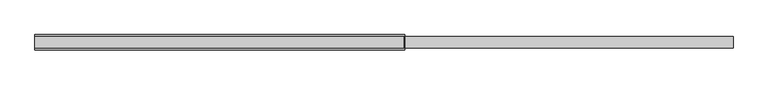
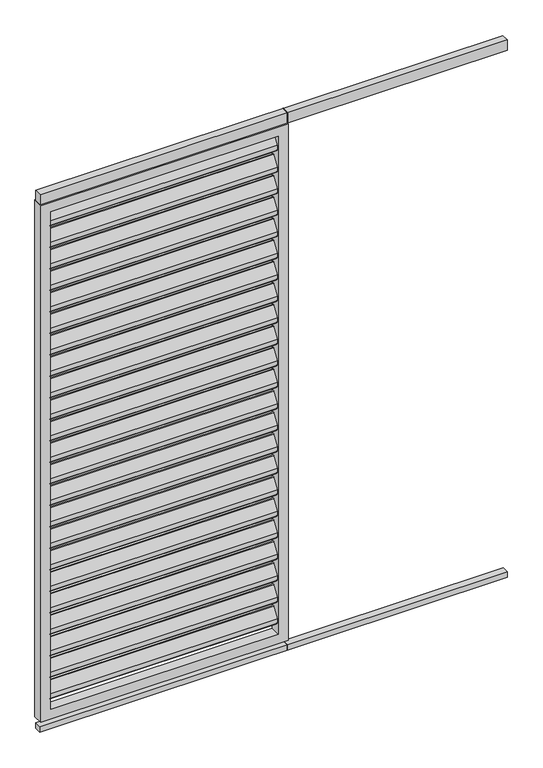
"""IFC4 building model written with IfcOpenShell, lengths in millimetres: proxy geometry, Renson_Camargue_Loggia_Paro_Aluminium : Renson_Camargue_Loggia_Paro_Aluminium."""

from ifc_helpers import new_model, si_unit, point, frame, frame_2d, origin, origin_with_axes, place, context, project, spatial, polyline, circle_curve, trimmed, segment, composite_curve, outline, extrude, source, transform, mapped, element, save


def generic_models_a826ae34(model_context):
    return source(origin(), model_context, "Body", "SweptSolid", [
        extrude(outline(composite_curve([segment(trimmed(circle_curve(frame_2d((12.6675921, 2162.6587719)), 3.0), [point((10.1515804, 2164.292689))], [point((15.6675921, 2162.6587719))], False, "CARTESIAN"), True, "CONTINUOUS"), segment(polyline([(15.6675921, 2162.6587719), (15.6675921, 2144.2979873)]), True, "CONTINUOUS"), segment(trimmed(circle_curve(frame_2d((12.6675921, 2144.2979873)), 3.0), [point((15.6675921, 2144.2979873))], [point((15.1836038, 2142.6640702))], False, "CARTESIAN"), True, "CONTINUOUS"), segment(polyline([(15.1836038, 2142.6640702), (-8.8163962, 2105.707311)]), True, "CONTINUOUS"), segment(trimmed(circle_curve(frame_2d((-11.3324079, 2107.3412281)), 3.0), [point((-8.8163962, 2105.707311))], [point((-14.3324079, 2107.3412281))], False, "CARTESIAN"), True, "CONTINUOUS"), segment(polyline([(-14.3324079, 2107.3412281), (-14.3324079, 2126.5906532), (10.1515804, 2164.292689)]), True, "CONTINUOUS")], self_intersect=False)), frame((-450.0, 0.0, 0.0), z_axis=(1.0, 0.0, 0.0), x_axis=(0.0, 1.0, 0.0)), (0.0, 0.0, 1.0), 900.0),
        extrude(outline(composite_curve([segment(trimmed(circle_curve(frame_2d((12.6675921, 2072.6587719)), 3.0), [point((10.1515804, 2074.292689))], [point((15.6675921, 2072.6587719))], False, "CARTESIAN"), True, "CONTINUOUS"), segment(polyline([(15.6675921, 2072.6587719), (15.6675921, 2054.2979873)]), True, "CONTINUOUS"), segment(trimmed(circle_curve(frame_2d((12.6675921, 2054.2979873)), 3.0), [point((15.6675921, 2054.2979873))], [point((15.1836038, 2052.6640702))], False, "CARTESIAN"), True, "CONTINUOUS"), segment(polyline([(15.1836038, 2052.6640702), (-8.8163962, 2015.707311)]), True, "CONTINUOUS"), segment(trimmed(circle_curve(frame_2d((-11.3324079, 2017.3412281)), 3.0), [point((-8.8163962, 2015.707311))], [point((-14.3324079, 2017.3412281))], False, "CARTESIAN"), True, "CONTINUOUS"), segment(polyline([(-14.3324079, 2017.3412281), (-14.3324079, 2036.5906532), (10.1515804, 2074.292689)]), True, "CONTINUOUS")], self_intersect=False)), frame((-450.0, 0.0, 0.0), z_axis=(1.0, 0.0, 0.0), x_axis=(0.0, 1.0, 0.0)), (0.0, 0.0, 1.0), 900.0),
        extrude(outline(composite_curve([segment(trimmed(circle_curve(frame_2d((12.6675921, 1982.6587719)), 3.0), [point((10.1515804, 1984.292689))], [point((15.6675921, 1982.6587719))], False, "CARTESIAN"), True, "CONTINUOUS"), segment(polyline([(15.6675921, 1982.6587719), (15.6675921, 1964.2979873)]), True, "CONTINUOUS"), segment(trimmed(circle_curve(frame_2d((12.6675921, 1964.2979873)), 3.0), [point((15.6675921, 1964.2979873))], [point((15.1836038, 1962.6640702))], False, "CARTESIAN"), True, "CONTINUOUS"), segment(polyline([(15.1836038, 1962.6640702), (-8.8163962, 1925.707311)]), True, "CONTINUOUS"), segment(trimmed(circle_curve(frame_2d((-11.3324079, 1927.3412281)), 3.0), [point((-8.8163962, 1925.707311))], [point((-14.3324079, 1927.3412281))], False, "CARTESIAN"), True, "CONTINUOUS"), segment(polyline([(-14.3324079, 1927.3412281), (-14.3324079, 1946.5906532), (10.1515804, 1984.292689)]), True, "CONTINUOUS")], self_intersect=False)), frame((-450.0, 0.0, 0.0), z_axis=(1.0, 0.0, 0.0), x_axis=(0.0, 1.0, 0.0)), (0.0, 0.0, 1.0), 900.0),
        extrude(outline(composite_curve([segment(trimmed(circle_curve(frame_2d((12.6675921, 1892.6587719)), 3.0), [point((10.1515804, 1894.292689))], [point((15.6675921, 1892.6587719))], False, "CARTESIAN"), True, "CONTINUOUS"), segment(polyline([(15.6675921, 1892.6587719), (15.6675921, 1874.2979873)]), True, "CONTINUOUS"), segment(trimmed(circle_curve(frame_2d((12.6675921, 1874.2979873)), 3.0), [point((15.6675921, 1874.2979873))], [point((15.1836038, 1872.6640702))], False, "CARTESIAN"), True, "CONTINUOUS"), segment(polyline([(15.1836038, 1872.6640702), (-8.8163962, 1835.707311)]), True, "CONTINUOUS"), segment(trimmed(circle_curve(frame_2d((-11.3324079, 1837.3412281)), 3.0), [point((-8.8163962, 1835.707311))], [point((-14.3324079, 1837.3412281))], False, "CARTESIAN"), True, "CONTINUOUS"), segment(polyline([(-14.3324079, 1837.3412281), (-14.3324079, 1856.5906532), (10.1515804, 1894.292689)]), True, "CONTINUOUS")], self_intersect=False)), frame((-450.0, 0.0, 0.0), z_axis=(1.0, 0.0, 0.0), x_axis=(0.0, 1.0, 0.0)), (0.0, 0.0, 1.0), 900.0),
        extrude(outline(composite_curve([segment(trimmed(circle_curve(frame_2d((12.6675921, 1802.6587719)), 3.0), [point((10.1515804, 1804.292689))], [point((15.6675921, 1802.6587719))], False, "CARTESIAN"), True, "CONTINUOUS"), segment(polyline([(15.6675921, 1802.6587719), (15.6675921, 1784.2979873)]), True, "CONTINUOUS"), segment(trimmed(circle_curve(frame_2d((12.6675921, 1784.2979873)), 3.0), [point((15.6675921, 1784.2979873))], [point((15.1836038, 1782.6640702))], False, "CARTESIAN"), True, "CONTINUOUS"), segment(polyline([(15.1836038, 1782.6640702), (-8.8163962, 1745.707311)]), True, "CONTINUOUS"), segment(trimmed(circle_curve(frame_2d((-11.3324079, 1747.3412281)), 3.0), [point((-8.8163962, 1745.707311))], [point((-14.3324079, 1747.3412281))], False, "CARTESIAN"), True, "CONTINUOUS"), segment(polyline([(-14.3324079, 1747.3412281), (-14.3324079, 1766.5906532), (10.1515804, 1804.292689)]), True, "CONTINUOUS")], self_intersect=False)), frame((-450.0, 0.0, 0.0), z_axis=(1.0, 0.0, 0.0), x_axis=(0.0, 1.0, 0.0)), (0.0, 0.0, 1.0), 900.0),
        extrude(outline(composite_curve([segment(trimmed(circle_curve(frame_2d((12.6675921, 1712.6587719)), 3.0), [point((10.1515804, 1714.292689))], [point((15.6675921, 1712.6587719))], False, "CARTESIAN"), True, "CONTINUOUS"), segment(polyline([(15.6675921, 1712.6587719), (15.6675921, 1694.2979873)]), True, "CONTINUOUS"), segment(trimmed(circle_curve(frame_2d((12.6675921, 1694.2979873)), 3.0), [point((15.6675921, 1694.2979873))], [point((15.1836038, 1692.6640702))], False, "CARTESIAN"), True, "CONTINUOUS"), segment(polyline([(15.1836038, 1692.6640702), (-8.8163962, 1655.707311)]), True, "CONTINUOUS"), segment(trimmed(circle_curve(frame_2d((-11.3324079, 1657.3412281)), 3.0), [point((-8.8163962, 1655.707311))], [point((-14.3324079, 1657.3412281))], False, "CARTESIAN"), True, "CONTINUOUS"), segment(polyline([(-14.3324079, 1657.3412281), (-14.3324079, 1676.5906532), (10.1515804, 1714.292689)]), True, "CONTINUOUS")], self_intersect=False)), frame((-450.0, 0.0, 0.0), z_axis=(1.0, 0.0, 0.0), x_axis=(0.0, 1.0, 0.0)), (0.0, 0.0, 1.0), 900.0),
        extrude(outline(composite_curve([segment(trimmed(circle_curve(frame_2d((12.6675921, 1622.6587719)), 3.0), [point((10.1515804, 1624.292689))], [point((15.6675921, 1622.6587719))], False, "CARTESIAN"), True, "CONTINUOUS"), segment(polyline([(15.6675921, 1622.6587719), (15.6675921, 1604.2979873)]), True, "CONTINUOUS"), segment(trimmed(circle_curve(frame_2d((12.6675921, 1604.2979873)), 3.0), [point((15.6675921, 1604.2979873))], [point((15.1836038, 1602.6640702))], False, "CARTESIAN"), True, "CONTINUOUS"), segment(polyline([(15.1836038, 1602.6640702), (-8.8163962, 1565.707311)]), True, "CONTINUOUS"), segment(trimmed(circle_curve(frame_2d((-11.3324079, 1567.3412281)), 3.0), [point((-8.8163962, 1565.707311))], [point((-14.3324079, 1567.3412281))], False, "CARTESIAN"), True, "CONTINUOUS"), segment(polyline([(-14.3324079, 1567.3412281), (-14.3324079, 1586.5906532), (10.1515804, 1624.292689)]), True, "CONTINUOUS")], self_intersect=False)), frame((-450.0, 0.0, 0.0), z_axis=(1.0, 0.0, 0.0), x_axis=(0.0, 1.0, 0.0)), (0.0, 0.0, 1.0), 900.0),
        extrude(outline(composite_curve([segment(trimmed(circle_curve(frame_2d((12.6675921, 1532.6587719)), 3.0), [point((10.1515804, 1534.292689))], [point((15.6675921, 1532.6587719))], False, "CARTESIAN"), True, "CONTINUOUS"), segment(polyline([(15.6675921, 1532.6587719), (15.6675921, 1514.2979873)]), True, "CONTINUOUS"), segment(trimmed(circle_curve(frame_2d((12.6675921, 1514.2979873)), 3.0), [point((15.6675921, 1514.2979873))], [point((15.1836038, 1512.6640702))], False, "CARTESIAN"), True, "CONTINUOUS"), segment(polyline([(15.1836038, 1512.6640702), (-8.8163962, 1475.707311)]), True, "CONTINUOUS"), segment(trimmed(circle_curve(frame_2d((-11.3324079, 1477.3412281)), 3.0), [point((-8.8163962, 1475.707311))], [point((-14.3324079, 1477.3412281))], False, "CARTESIAN"), True, "CONTINUOUS"), segment(polyline([(-14.3324079, 1477.3412281), (-14.3324079, 1496.5906532), (10.1515804, 1534.292689)]), True, "CONTINUOUS")], self_intersect=False)), frame((-450.0, 0.0, 0.0), z_axis=(1.0, 0.0, 0.0), x_axis=(0.0, 1.0, 0.0)), (0.0, 0.0, 1.0), 900.0),
        extrude(outline(composite_curve([segment(trimmed(circle_curve(frame_2d((12.6675921, 1442.6587719)), 3.0), [point((10.1515804, 1444.292689))], [point((15.6675921, 1442.6587719))], False, "CARTESIAN"), True, "CONTINUOUS"), segment(polyline([(15.6675921, 1442.6587719), (15.6675921, 1424.2979873)]), True, "CONTINUOUS"), segment(trimmed(circle_curve(frame_2d((12.6675921, 1424.2979873)), 3.0), [point((15.6675921, 1424.2979873))], [point((15.1836038, 1422.6640702))], False, "CARTESIAN"), True, "CONTINUOUS"), segment(polyline([(15.1836038, 1422.6640702), (-8.8163962, 1385.707311)]), True, "CONTINUOUS"), segment(trimmed(circle_curve(frame_2d((-11.3324079, 1387.3412281)), 3.0), [point((-8.8163962, 1385.707311))], [point((-14.3324079, 1387.3412281))], False, "CARTESIAN"), True, "CONTINUOUS"), segment(polyline([(-14.3324079, 1387.3412281), (-14.3324079, 1406.5906532), (10.1515804, 1444.292689)]), True, "CONTINUOUS")], self_intersect=False)), frame((-450.0, 0.0, 0.0), z_axis=(1.0, 0.0, 0.0), x_axis=(0.0, 1.0, 0.0)), (0.0, 0.0, 1.0), 900.0),
        extrude(outline(composite_curve([segment(trimmed(circle_curve(frame_2d((12.6675921, 1352.6587719)), 3.0), [point((10.1515804, 1354.292689))], [point((15.6675921, 1352.6587719))], False, "CARTESIAN"), True, "CONTINUOUS"), segment(polyline([(15.6675921, 1352.6587719), (15.6675921, 1334.2979873)]), True, "CONTINUOUS"), segment(trimmed(circle_curve(frame_2d((12.6675921, 1334.2979873)), 3.0), [point((15.6675921, 1334.2979873))], [point((15.1836038, 1332.6640702))], False, "CARTESIAN"), True, "CONTINUOUS"), segment(polyline([(15.1836038, 1332.6640702), (-8.8163962, 1295.707311)]), True, "CONTINUOUS"), segment(trimmed(circle_curve(frame_2d((-11.3324079, 1297.3412281)), 3.0), [point((-8.8163962, 1295.707311))], [point((-14.3324079, 1297.3412281))], False, "CARTESIAN"), True, "CONTINUOUS"), segment(polyline([(-14.3324079, 1297.3412281), (-14.3324079, 1316.5906532), (10.1515804, 1354.292689)]), True, "CONTINUOUS")], self_intersect=False)), frame((-450.0, 0.0, 0.0), z_axis=(1.0, 0.0, 0.0), x_axis=(0.0, 1.0, 0.0)), (0.0, 0.0, 1.0), 900.0),
        extrude(outline(composite_curve([segment(trimmed(circle_curve(frame_2d((12.6675921, 1262.6587719)), 3.0), [point((10.1515804, 1264.292689))], [point((15.6675921, 1262.6587719))], False, "CARTESIAN"), True, "CONTINUOUS"), segment(polyline([(15.6675921, 1262.6587719), (15.6675921, 1244.2979873)]), True, "CONTINUOUS"), segment(trimmed(circle_curve(frame_2d((12.6675921, 1244.2979873)), 3.0), [point((15.6675921, 1244.2979873))], [point((15.1836038, 1242.6640702))], False, "CARTESIAN"), True, "CONTINUOUS"), segment(polyline([(15.1836038, 1242.6640702), (-8.8163962, 1205.707311)]), True, "CONTINUOUS"), segment(trimmed(circle_curve(frame_2d((-11.3324079, 1207.3412281)), 3.0), [point((-8.8163962, 1205.707311))], [point((-14.3324079, 1207.3412281))], False, "CARTESIAN"), True, "CONTINUOUS"), segment(polyline([(-14.3324079, 1207.3412281), (-14.3324079, 1226.5906532), (10.1515804, 1264.292689)]), True, "CONTINUOUS")], self_intersect=False)), frame((-450.0, 0.0, 0.0), z_axis=(1.0, 0.0, 0.0), x_axis=(0.0, 1.0, 0.0)), (0.0, 0.0, 1.0), 900.0),
        extrude(outline(composite_curve([segment(trimmed(circle_curve(frame_2d((12.6675921, 1172.6587719)), 3.0), [point((10.1515804, 1174.292689))], [point((15.6675921, 1172.6587719))], False, "CARTESIAN"), True, "CONTINUOUS"), segment(polyline([(15.6675921, 1172.6587719), (15.6675921, 1154.2979873)]), True, "CONTINUOUS"), segment(trimmed(circle_curve(frame_2d((12.6675921, 1154.2979873)), 3.0), [point((15.6675921, 1154.2979873))], [point((15.1836038, 1152.6640702))], False, "CARTESIAN"), True, "CONTINUOUS"), segment(polyline([(15.1836038, 1152.6640702), (-8.8163962, 1115.707311)]), True, "CONTINUOUS"), segment(trimmed(circle_curve(frame_2d((-11.3324079, 1117.3412281)), 3.0), [point((-8.8163962, 1115.707311))], [point((-14.3324079, 1117.3412281))], False, "CARTESIAN"), True, "CONTINUOUS"), segment(polyline([(-14.3324079, 1117.3412281), (-14.3324079, 1136.5906532), (10.1515804, 1174.292689)]), True, "CONTINUOUS")], self_intersect=False)), frame((-450.0, 0.0, 0.0), z_axis=(1.0, 0.0, 0.0), x_axis=(0.0, 1.0, 0.0)), (0.0, 0.0, 1.0), 900.0),
        extrude(outline(composite_curve([segment(trimmed(circle_curve(frame_2d((12.6675921, 1082.6587719)), 3.0), [point((10.1515804, 1084.292689))], [point((15.6675921, 1082.6587719))], False, "CARTESIAN"), True, "CONTINUOUS"), segment(polyline([(15.6675921, 1082.6587719), (15.6675921, 1064.2979873)]), True, "CONTINUOUS"), segment(trimmed(circle_curve(frame_2d((12.6675921, 1064.2979873)), 3.0), [point((15.6675921, 1064.2979873))], [point((15.1836038, 1062.6640702))], False, "CARTESIAN"), True, "CONTINUOUS"), segment(polyline([(15.1836038, 1062.6640702), (-8.8163962, 1025.707311)]), True, "CONTINUOUS"), segment(trimmed(circle_curve(frame_2d((-11.3324079, 1027.3412281)), 3.0), [point((-8.8163962, 1025.707311))], [point((-14.3324079, 1027.3412281))], False, "CARTESIAN"), True, "CONTINUOUS"), segment(polyline([(-14.3324079, 1027.3412281), (-14.3324079, 1046.5906532), (10.1515804, 1084.292689)]), True, "CONTINUOUS")], self_intersect=False)), frame((-450.0, 0.0, 0.0), z_axis=(1.0, 0.0, 0.0), x_axis=(0.0, 1.0, 0.0)), (0.0, 0.0, 1.0), 900.0),
        extrude(outline(composite_curve([segment(trimmed(circle_curve(frame_2d((12.6675921, 992.6587719)), 3.0), [point((10.1515804, 994.292689))], [point((15.6675921, 992.6587719))], False, "CARTESIAN"), True, "CONTINUOUS"), segment(polyline([(15.6675921, 992.6587719), (15.6675921, 974.2979873)]), True, "CONTINUOUS"), segment(trimmed(circle_curve(frame_2d((12.6675921, 974.2979873)), 3.0), [point((15.6675921, 974.2979873))], [point((15.1836038, 972.6640702))], False, "CARTESIAN"), True, "CONTINUOUS"), segment(polyline([(15.1836038, 972.6640702), (-8.8163962, 935.707311)]), True, "CONTINUOUS"), segment(trimmed(circle_curve(frame_2d((-11.3324079, 937.3412281)), 3.0), [point((-8.8163962, 935.707311))], [point((-14.3324079, 937.3412281))], False, "CARTESIAN"), True, "CONTINUOUS"), segment(polyline([(-14.3324079, 937.3412281), (-14.3324079, 956.5906532), (10.1515804, 994.292689)]), True, "CONTINUOUS")], self_intersect=False)), frame((-450.0, 0.0, 0.0), z_axis=(1.0, 0.0, 0.0), x_axis=(0.0, 1.0, 0.0)), (0.0, 0.0, 1.0), 900.0),
        extrude(outline(composite_curve([segment(trimmed(circle_curve(frame_2d((12.6675921, 902.6587719)), 3.0), [point((10.1515804, 904.292689))], [point((15.6675921, 902.6587719))], False, "CARTESIAN"), True, "CONTINUOUS"), segment(polyline([(15.6675921, 902.6587719), (15.6675921, 884.2979873)]), True, "CONTINUOUS"), segment(trimmed(circle_curve(frame_2d((12.6675921, 884.2979873)), 3.0), [point((15.6675921, 884.2979873))], [point((15.1836038, 882.6640702))], False, "CARTESIAN"), True, "CONTINUOUS"), segment(polyline([(15.1836038, 882.6640702), (-8.8163962, 845.707311)]), True, "CONTINUOUS"), segment(trimmed(circle_curve(frame_2d((-11.3324079, 847.3412281)), 3.0), [point((-8.8163962, 845.707311))], [point((-14.3324079, 847.3412281))], False, "CARTESIAN"), True, "CONTINUOUS"), segment(polyline([(-14.3324079, 847.3412281), (-14.3324079, 866.5906532), (10.1515804, 904.292689)]), True, "CONTINUOUS")], self_intersect=False)), frame((-450.0, 0.0, 0.0), z_axis=(1.0, 0.0, 0.0), x_axis=(0.0, 1.0, 0.0)), (0.0, 0.0, 1.0), 900.0),
        extrude(outline(composite_curve([segment(trimmed(circle_curve(frame_2d((12.6675921, 812.6587719)), 3.0), [point((10.1515804, 814.292689))], [point((15.6675921, 812.6587719))], False, "CARTESIAN"), True, "CONTINUOUS"), segment(polyline([(15.6675921, 812.6587719), (15.6675921, 794.2979873)]), True, "CONTINUOUS"), segment(trimmed(circle_curve(frame_2d((12.6675921, 794.2979873)), 3.0), [point((15.6675921, 794.2979873))], [point((15.1836038, 792.6640702))], False, "CARTESIAN"), True, "CONTINUOUS"), segment(polyline([(15.1836038, 792.6640702), (-8.8163962, 755.707311)]), True, "CONTINUOUS"), segment(trimmed(circle_curve(frame_2d((-11.3324079, 757.3412281)), 3.0), [point((-8.8163962, 755.707311))], [point((-14.3324079, 757.3412281))], False, "CARTESIAN"), True, "CONTINUOUS"), segment(polyline([(-14.3324079, 757.3412281), (-14.3324079, 776.5906532), (10.1515804, 814.292689)]), True, "CONTINUOUS")], self_intersect=False)), frame((-450.0, 0.0, 0.0), z_axis=(1.0, 0.0, 0.0), x_axis=(0.0, 1.0, 0.0)), (0.0, 0.0, 1.0), 900.0),
        extrude(outline(composite_curve([segment(trimmed(circle_curve(frame_2d((12.6675921, 722.6587719)), 3.0), [point((10.1515804, 724.292689))], [point((15.6675921, 722.6587719))], False, "CARTESIAN"), True, "CONTINUOUS"), segment(polyline([(15.6675921, 722.6587719), (15.6675921, 704.2979873)]), True, "CONTINUOUS"), segment(trimmed(circle_curve(frame_2d((12.6675921, 704.2979873)), 3.0), [point((15.6675921, 704.2979873))], [point((15.1836038, 702.6640702))], False, "CARTESIAN"), True, "CONTINUOUS"), segment(polyline([(15.1836038, 702.6640702), (-8.8163962, 665.707311)]), True, "CONTINUOUS"), segment(trimmed(circle_curve(frame_2d((-11.3324079, 667.3412281)), 3.0), [point((-8.8163962, 665.707311))], [point((-14.3324079, 667.3412281))], False, "CARTESIAN"), True, "CONTINUOUS"), segment(polyline([(-14.3324079, 667.3412281), (-14.3324079, 686.5906532), (10.1515804, 724.292689)]), True, "CONTINUOUS")], self_intersect=False)), frame((-450.0, 0.0, 0.0), z_axis=(1.0, 0.0, 0.0), x_axis=(0.0, 1.0, 0.0)), (0.0, 0.0, 1.0), 900.0),
        extrude(outline(composite_curve([segment(trimmed(circle_curve(frame_2d((12.6675921, 632.6587719)), 3.0), [point((10.1515804, 634.292689))], [point((15.6675921, 632.6587719))], False, "CARTESIAN"), True, "CONTINUOUS"), segment(polyline([(15.6675921, 632.6587719), (15.6675921, 614.2979873)]), True, "CONTINUOUS"), segment(trimmed(circle_curve(frame_2d((12.6675921, 614.2979873)), 3.0), [point((15.6675921, 614.2979873))], [point((15.1836038, 612.6640702))], False, "CARTESIAN"), True, "CONTINUOUS"), segment(polyline([(15.1836038, 612.6640702), (-8.8163962, 575.707311)]), True, "CONTINUOUS"), segment(trimmed(circle_curve(frame_2d((-11.3324079, 577.3412281)), 3.0), [point((-8.8163962, 575.707311))], [point((-14.3324079, 577.3412281))], False, "CARTESIAN"), True, "CONTINUOUS"), segment(polyline([(-14.3324079, 577.3412281), (-14.3324079, 596.5906532), (10.1515804, 634.292689)]), True, "CONTINUOUS")], self_intersect=False)), frame((-450.0, 0.0, 0.0), z_axis=(1.0, 0.0, 0.0), x_axis=(0.0, 1.0, 0.0)), (0.0, 0.0, 1.0), 900.0),
        extrude(outline(composite_curve([segment(trimmed(circle_curve(frame_2d((12.6675921, 542.6587719)), 3.0), [point((10.1515804, 544.292689))], [point((15.6675921, 542.6587719))], False, "CARTESIAN"), True, "CONTINUOUS"), segment(polyline([(15.6675921, 542.6587719), (15.6675921, 524.2979873)]), True, "CONTINUOUS"), segment(trimmed(circle_curve(frame_2d((12.6675921, 524.2979873)), 3.0), [point((15.6675921, 524.2979873))], [point((15.1836038, 522.6640702))], False, "CARTESIAN"), True, "CONTINUOUS"), segment(polyline([(15.1836038, 522.6640702), (-8.8163962, 485.707311)]), True, "CONTINUOUS"), segment(trimmed(circle_curve(frame_2d((-11.3324079, 487.3412281)), 3.0), [point((-8.8163962, 485.707311))], [point((-14.3324079, 487.3412281))], False, "CARTESIAN"), True, "CONTINUOUS"), segment(polyline([(-14.3324079, 487.3412281), (-14.3324079, 506.5906532), (10.1515804, 544.292689)]), True, "CONTINUOUS")], self_intersect=False)), frame((-450.0, 0.0, 0.0), z_axis=(1.0, 0.0, 0.0), x_axis=(0.0, 1.0, 0.0)), (0.0, 0.0, 1.0), 900.0),
        extrude(outline(composite_curve([segment(trimmed(circle_curve(frame_2d((12.6675921, 452.6587719)), 3.0), [point((10.1515804, 454.292689))], [point((15.6675921, 452.6587719))], False, "CARTESIAN"), True, "CONTINUOUS"), segment(polyline([(15.6675921, 452.6587719), (15.6675921, 434.2979873)]), True, "CONTINUOUS"), segment(trimmed(circle_curve(frame_2d((12.6675921, 434.2979873)), 3.0), [point((15.6675921, 434.2979873))], [point((15.1836038, 432.6640702))], False, "CARTESIAN"), True, "CONTINUOUS"), segment(polyline([(15.1836038, 432.6640702), (-8.8163962, 395.707311)]), True, "CONTINUOUS"), segment(trimmed(circle_curve(frame_2d((-11.3324079, 397.3412281)), 3.0), [point((-8.8163962, 395.707311))], [point((-14.3324079, 397.3412281))], False, "CARTESIAN"), True, "CONTINUOUS"), segment(polyline([(-14.3324079, 397.3412281), (-14.3324079, 416.5906532), (10.1515804, 454.292689)]), True, "CONTINUOUS")], self_intersect=False)), frame((-450.0, 0.0, 0.0), z_axis=(1.0, 0.0, 0.0), x_axis=(0.0, 1.0, 0.0)), (0.0, 0.0, 1.0), 900.0),
        extrude(outline(composite_curve([segment(trimmed(circle_curve(frame_2d((12.6675921, 362.6587719)), 3.0), [point((10.1515804, 364.292689))], [point((15.6675921, 362.6587719))], False, "CARTESIAN"), True, "CONTINUOUS"), segment(polyline([(15.6675921, 362.6587719), (15.6675921, 344.2979873)]), True, "CONTINUOUS"), segment(trimmed(circle_curve(frame_2d((12.6675921, 344.2979873)), 3.0), [point((15.6675921, 344.2979873))], [point((15.1836038, 342.6640702))], False, "CARTESIAN"), True, "CONTINUOUS"), segment(polyline([(15.1836038, 342.6640702), (-8.8163962, 305.707311)]), True, "CONTINUOUS"), segment(trimmed(circle_curve(frame_2d((-11.3324079, 307.3412281)), 3.0), [point((-8.8163962, 305.707311))], [point((-14.3324079, 307.3412281))], False, "CARTESIAN"), True, "CONTINUOUS"), segment(polyline([(-14.3324079, 307.3412281), (-14.3324079, 326.5906532), (10.1515804, 364.292689)]), True, "CONTINUOUS")], self_intersect=False)), frame((-450.0, 0.0, 0.0), z_axis=(1.0, 0.0, 0.0), x_axis=(0.0, 1.0, 0.0)), (0.0, 0.0, 1.0), 900.0),
        extrude(outline(composite_curve([segment(trimmed(circle_curve(frame_2d((12.6675921, 272.6587719)), 3.0), [point((10.1515804, 274.292689))], [point((15.6675921, 272.6587719))], False, "CARTESIAN"), True, "CONTINUOUS"), segment(polyline([(15.6675921, 272.6587719), (15.6675921, 254.2979873)]), True, "CONTINUOUS"), segment(trimmed(circle_curve(frame_2d((12.6675921, 254.2979873)), 3.0), [point((15.6675921, 254.2979873))], [point((15.1836038, 252.6640702))], False, "CARTESIAN"), True, "CONTINUOUS"), segment(polyline([(15.1836038, 252.6640702), (-8.8163962, 215.707311)]), True, "CONTINUOUS"), segment(trimmed(circle_curve(frame_2d((-11.3324079, 217.3412281)), 3.0), [point((-8.8163962, 215.707311))], [point((-14.3324079, 217.3412281))], False, "CARTESIAN"), True, "CONTINUOUS"), segment(polyline([(-14.3324079, 217.3412281), (-14.3324079, 236.5906532), (10.1515804, 274.292689)]), True, "CONTINUOUS")], self_intersect=False)), frame((-450.0, 0.0, 0.0), z_axis=(1.0, 0.0, 0.0), x_axis=(0.0, 1.0, 0.0)), (0.0, 0.0, 1.0), 900.0),
        extrude(outline(composite_curve([segment(trimmed(circle_curve(frame_2d((12.6675921, 182.6587719)), 3.0), [point((10.1515804, 184.292689))], [point((15.6675921, 182.6587719))], False, "CARTESIAN"), True, "CONTINUOUS"), segment(polyline([(15.6675921, 182.6587719), (15.6675921, 164.2979873)]), True, "CONTINUOUS"), segment(trimmed(circle_curve(frame_2d((12.6675921, 164.2979873)), 3.0), [point((15.6675921, 164.2979873))], [point((15.1836038, 162.6640702))], False, "CARTESIAN"), True, "CONTINUOUS"), segment(polyline([(15.1836038, 162.6640702), (-8.8163962, 125.707311)]), True, "CONTINUOUS"), segment(trimmed(circle_curve(frame_2d((-11.3324079, 127.3412281)), 3.0), [point((-8.8163962, 125.707311))], [point((-14.3324079, 127.3412281))], False, "CARTESIAN"), True, "CONTINUOUS"), segment(polyline([(-14.3324079, 127.3412281), (-14.3324079, 146.5906532), (10.1515804, 184.292689)]), True, "CONTINUOUS")], self_intersect=False)), frame((-450.0, 0.0, 0.0), z_axis=(1.0, 0.0, 0.0), x_axis=(0.0, 1.0, 0.0)), (0.0, 0.0, 1.0), 900.0),
        extrude(outline(polyline([(490.0, 15.0), (490.0, -15.0), (489.0, -15.0), (489.0, 15.0), (490.0, 15.0)])), frame((0.0, 0.0, 2207.7138321), z_axis=(0.0, 0.0, 1.0), x_axis=(1.0, 0.0, 0.0)), (0.0, 0.0, 1.0), 42.2861679),
        extrude(outline(polyline([(1360.0, 15.0), (1360.0, -15.0), (-490.0, -15.0), (-490.0, 15.0), (1360.0, 15.0)])), frame((0.0, 0.0, 2207.7138321), z_axis=(0.0, 0.0, 1.0), x_axis=(1.0, 0.0, 0.0)), (0.0, 0.0, 1.0), 42.2861679),
        extrude(outline(polyline([(490.0, -13.0), (489.0, -13.0), (489.0, 14.0), (490.0, 14.0), (490.0, -13.0)])), origin_with_axes(), (0.0, 0.0, 1.0), 23.0),
        extrude(outline(polyline([(1360.0, -13.0), (-490.0, -13.0), (-490.0, 14.0), (1360.0, 14.0), (1360.0, -13.0)])), origin_with_axes(), (0.0, 0.0, 1.0), 23.0),
        extrude(outline(polyline([(2207.7138321, -490.0), (45.0, -490.0), (45.0, 490.0), (2207.7138321, 490.0), (2207.7138321, -490.0)]), holes=[polyline([(2167.7138321, 450.0), (85.0, 450.0), (85.0, -450.0), (2167.7138321, -450.0), (2167.7138321, 450.0)])]), frame((0.0, -20.0, 0.0), z_axis=(0.0, 1.0, 0.0), x_axis=(0.0, 0.0, 1.0)), (0.0, 0.0, 1.0), 40.0),
    ])


if __name__ == "__main__":
    model = new_model("IFC4")
    model_context = context("Model", 3, world=origin())
    ifc_project = project(units=[si_unit("LENGTHUNIT", "METRE", prefix="MILLI")], contexts=[model_context])
    site = spatial("IfcSite", under=ifc_project)
    building = spatial("IfcBuilding", under=site)
    placement = place(None, origin())
    generic_models_shape = generic_models_a826ae34(model_context)
    element("IfcBuildingElementProxy", 1, Name="Renson_Camargue_Loggia_Paro_Aluminium : Renson_Camargue_Loggia_Paro_Aluminium", ObjectType="Renson_Camargue_Loggia_Paro_Aluminium : Renson_Camargue_Loggia_Paro_Aluminium", at=placement, inside=building, context=model_context, shape_type="MappedRepresentation", body=[
        mapped(generic_models_shape, transform((0.0, 0.0, 0.0), x_axis=(1.0, 0.0, 0.0), y_axis=(0.0, 1.0, 0.0), z_axis=(0.0, 0.0, 1.0))),
    ])
    save(model, "model.ifc")
